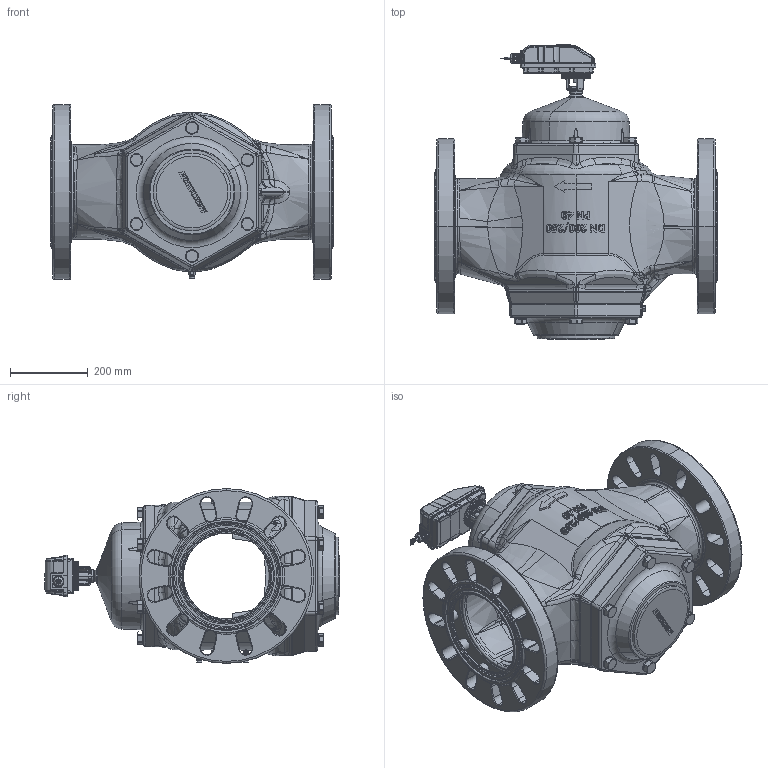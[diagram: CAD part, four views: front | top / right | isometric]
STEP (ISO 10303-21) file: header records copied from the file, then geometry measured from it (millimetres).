
FILE_DESCRIPTION (( 'STEP AP203' ), '1' );
FILE_NAME ('SM.6.2.B.3.0.0.0.STEP', '2025-09-25T07:07:12', ( '' ), ( '' ), 'SwSTEP 2.0', 'SolidWorks 2025', '' );
FILE_SCHEMA (( 'CONFIG_CONTROL_DESIGN' ));
Length unit declared in the file: millimetre
Products named in the file (1): SM.6.2.B.3.0.0.0
Bounding box: 728.38 x 760.1 x 450 mm (x, y, z)
Surface area: 2097509.4 mm2 (no closed solid volume)
Topology: 0 solids, 179 shells, 3183 faces, 10508 edges, 7092 vertices
Faces by surface type: cylinder 893, bspline 867, plane 669, torus 411, cone 280, sphere 63
Entity records: 175824 total; most frequent: CARTESIAN_POINT 95397, ORIENTED_EDGE 16634, DIRECTION 14806, EDGE_CURVE 10358, VERTEX_POINT 7088, AXIS2_PLACEMENT_3D 5946, CIRCLE 3629, EDGE_LOOP 3410
